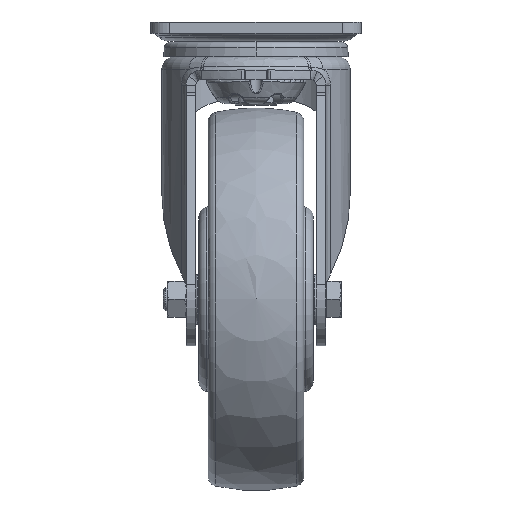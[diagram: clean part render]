
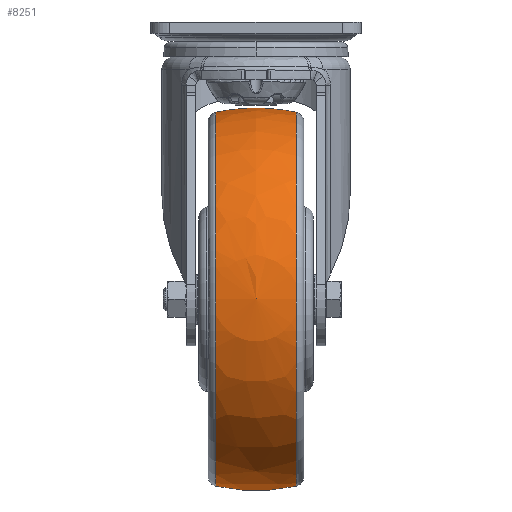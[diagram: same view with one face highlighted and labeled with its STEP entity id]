
A CAD part, top view. The second image highlights one B-rep face of the part: STEP entity #8251.
In plain terms, the highlighted spherical face has radius 100 mm.
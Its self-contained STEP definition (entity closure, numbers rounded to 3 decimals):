
#454 = AXIS2_PLACEMENT_3D ( 'NONE', #45734, #60744, #65403 ) ;
#1090 = DIRECTION ( 'NONE',  ( -1., 0., 0. ) ) ;
#2498 = CARTESIAN_POINT ( 'NONE',  ( -21.053, -97.759, 0. ) ) ;
#4090 = DIRECTION ( 'NONE',  ( 0., 0., -1. ) ) ;
#4285 = CARTESIAN_POINT ( 'NONE',  ( -21.053, 0., 0. ) ) ;
#4526 = CARTESIAN_POINT ( 'NONE',  ( 0., 0., 0. ) ) ;
#6195 = EDGE_CURVE ( 'NONE', #44319, #29535, #63177, .T. ) ;
#6689 = ORIENTED_EDGE ( 'NONE', *, *, #7354, .F. ) ;
#7354 = EDGE_CURVE ( 'NONE', #44319, #48013, #21065, .T. ) ;
#8251 = ADVANCED_FACE ( 'NONE', ( #41593 ), #12965, .T. ) ;
#10444 = CIRCLE ( 'NONE', #65469, 97.759 ) ;
#11425 = DIRECTION ( 'NONE',  ( 0., 1., 0. ) ) ;
#12965 = SPHERICAL_SURFACE ( 'NONE', #454, 100. ) ;
#13648 = EDGE_CURVE ( 'NONE', #29535, #54672, #24555, .T. ) ;
#14499 = CARTESIAN_POINT ( 'NONE',  ( 21.053, 97.759, 0. ) ) ;
#20041 = CARTESIAN_POINT ( 'NONE',  ( -21.053, 97.759, 0. ) ) ;
#21065 = CIRCLE ( 'NONE', #49030, 100. ) ;
#23648 = CARTESIAN_POINT ( 'NONE',  ( 0., 0., 0. ) ) ;
#24555 = CIRCLE ( 'NONE', #62347, 100. ) ;
#29535 = VERTEX_POINT ( 'NONE', #58116 ) ;
#29887 = AXIS2_PLACEMENT_3D ( 'NONE', #61315, #1090, #11425 ) ;
#34307 = DIRECTION ( 'NONE',  ( 0., 0., 1. ) ) ;
#35517 = DIRECTION ( 'NONE',  ( 0., 1., 0. ) ) ;
#39954 = DIRECTION ( 'NONE',  ( -1., 0., 0. ) ) ;
#40691 = ORIENTED_EDGE ( 'NONE', *, *, #6195, .T. ) ;
#41593 = FACE_OUTER_BOUND ( 'NONE', #54046, .T. ) ;
#41693 = ORIENTED_EDGE ( 'NONE', *, *, #13648, .T. ) ;
#44028 = DIRECTION ( 'NONE',  ( 0.211, 0.978, 0. ) ) ;
#44319 = VERTEX_POINT ( 'NONE', #14499 ) ;
#45485 = DIRECTION ( 'NONE',  ( 0.211, -0.978, 0. ) ) ;
#45734 = CARTESIAN_POINT ( 'NONE',  ( 0., 0., 0. ) ) ;
#48013 = VERTEX_POINT ( 'NONE', #20041 ) ;
#48340 = EDGE_CURVE ( 'NONE', #48013, #54672, #10444, .T. ) ;
#48448 = ORIENTED_EDGE ( 'NONE', *, *, #48340, .F. ) ;
#49030 = AXIS2_PLACEMENT_3D ( 'NONE', #23648, #34307, #44028 ) ;
#54046 = EDGE_LOOP ( 'NONE', ( #40691, #41693, #48448, #6689 ) ) ;
#54672 = VERTEX_POINT ( 'NONE', #2498 ) ;
#58116 = CARTESIAN_POINT ( 'NONE',  ( 21.053, -97.759, 0. ) ) ;
#60744 = DIRECTION ( 'NONE',  ( 0., 0., -1. ) ) ;
#61315 = CARTESIAN_POINT ( 'NONE',  ( 21.053, 0., 0. ) ) ;
#62347 = AXIS2_PLACEMENT_3D ( 'NONE', #4526, #4090, #45485 ) ;
#63177 = CIRCLE ( 'NONE', #29887, 97.759 ) ;
#65403 = DIRECTION ( 'NONE',  ( 0., -1., 0. ) ) ;
#65469 = AXIS2_PLACEMENT_3D ( 'NONE', #4285, #39954, #35517 ) ;
